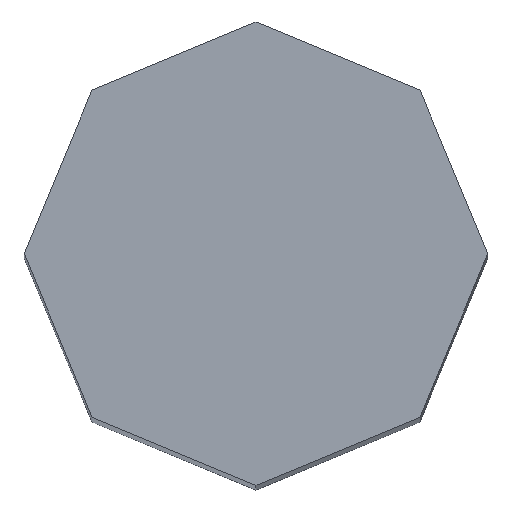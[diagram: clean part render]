
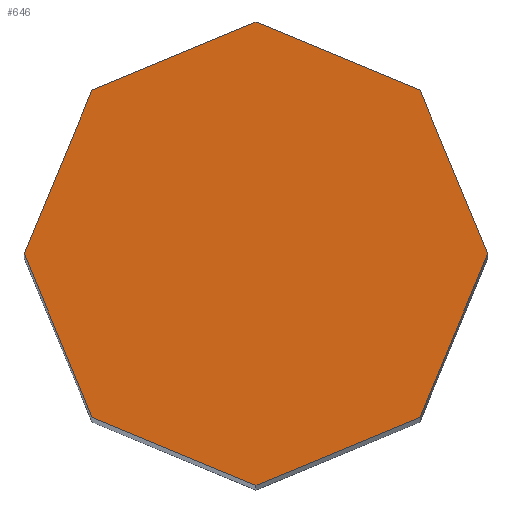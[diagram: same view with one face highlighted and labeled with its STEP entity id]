
A CAD part, top view. The second image highlights one B-rep face of the part: STEP entity #646.
In plain terms, the highlighted planar face has unit normal (0, 0, 1).
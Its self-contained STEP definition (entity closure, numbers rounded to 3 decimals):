
#24 = VERTEX_POINT('',#25);
#25 = CARTESIAN_POINT('',(15.2,0.,172.7));
#32 = PLANE('',#33);
#33 = AXIS2_PLACEMENT_3D('',#34,#35,#36);
#34 = CARTESIAN_POINT('',(15.2,0.,0.));
#35 = DIRECTION('',(-0.924,-0.383,0.));
#36 = DIRECTION('',(-0.383,0.924,0.));
#44 = PLANE('',#45);
#45 = AXIS2_PLACEMENT_3D('',#46,#47,#48);
#46 = CARTESIAN_POINT('',(10.748,-10.748,0.));
#47 = DIRECTION('',(-0.924,0.383,0.));
#48 = DIRECTION('',(0.383,0.924,0.));
#56 = EDGE_CURVE('',#24,#57,#59,.T.);
#57 = VERTEX_POINT('',#58);
#58 = CARTESIAN_POINT('',(10.748,10.748,172.7));
#59 = SURFACE_CURVE('',#60,(#64,#71),.PCURVE_S1.);
#60 = LINE('',#61,#62);
#61 = CARTESIAN_POINT('',(15.2,0.,172.7));
#62 = VECTOR('',#63,1.);
#63 = DIRECTION('',(-0.383,0.924,0.));
#64 = PCURVE('',#32,#65);
#65 = DEFINITIONAL_REPRESENTATION('',(#66),#70);
#66 = LINE('',#67,#68);
#67 = CARTESIAN_POINT('',(0.,-172.7));
#68 = VECTOR('',#69,1.);
#69 = DIRECTION('',(1.,0.));
#70 = ( GEOMETRIC_REPRESENTATION_CONTEXT(2) 
PARAMETRIC_REPRESENTATION_CONTEXT() REPRESENTATION_CONTEXT('2D SPACE',''
  ) );
#71 = PCURVE('',#72,#77);
#72 = PLANE('',#73);
#73 = AXIS2_PLACEMENT_3D('',#74,#75,#76);
#74 = CARTESIAN_POINT('',(0.,0.,172.7)
  );
#75 = DIRECTION('',(0.,0.,1.));
#76 = DIRECTION('',(1.,0.,-0.));
#77 = DEFINITIONAL_REPRESENTATION('',(#78),#82);
#78 = LINE('',#79,#80);
#79 = CARTESIAN_POINT('',(15.2,0.));
#80 = VECTOR('',#81,1.);
#81 = DIRECTION('',(-0.383,0.924));
#82 = ( GEOMETRIC_REPRESENTATION_CONTEXT(2) 
PARAMETRIC_REPRESENTATION_CONTEXT() REPRESENTATION_CONTEXT('2D SPACE',''
  ) );
#100 = PLANE('',#101);
#101 = AXIS2_PLACEMENT_3D('',#102,#103,#104);
#102 = CARTESIAN_POINT('',(10.748,10.748,0.));
#103 = DIRECTION('',(-0.383,-0.924,0.));
#104 = DIRECTION('',(-0.924,0.383,0.));
#142 = EDGE_CURVE('',#57,#143,#145,.T.);
#143 = VERTEX_POINT('',#144);
#144 = CARTESIAN_POINT('',(0.,15.2,172.7));
#145 = SURFACE_CURVE('',#146,(#150,#157),.PCURVE_S1.);
#146 = LINE('',#147,#148);
#147 = CARTESIAN_POINT('',(10.748,10.748,172.7));
#148 = VECTOR('',#149,1.);
#149 = DIRECTION('',(-0.924,0.383,0.));
#150 = PCURVE('',#100,#151);
#151 = DEFINITIONAL_REPRESENTATION('',(#152),#156);
#152 = LINE('',#153,#154);
#153 = CARTESIAN_POINT('',(0.,-172.7));
#154 = VECTOR('',#155,1.);
#155 = DIRECTION('',(1.,0.));
#156 = ( GEOMETRIC_REPRESENTATION_CONTEXT(2) 
PARAMETRIC_REPRESENTATION_CONTEXT() REPRESENTATION_CONTEXT('2D SPACE',''
  ) );
#157 = PCURVE('',#72,#158);
#158 = DEFINITIONAL_REPRESENTATION('',(#159),#163);
#159 = LINE('',#160,#161);
#160 = CARTESIAN_POINT('',(10.748,10.748));
#161 = VECTOR('',#162,1.);
#162 = DIRECTION('',(-0.924,0.383));
#163 = ( GEOMETRIC_REPRESENTATION_CONTEXT(2) 
PARAMETRIC_REPRESENTATION_CONTEXT() REPRESENTATION_CONTEXT('2D SPACE',''
  ) );
#181 = PLANE('',#182);
#182 = AXIS2_PLACEMENT_3D('',#183,#184,#185);
#183 = CARTESIAN_POINT('',(0.,15.2,0.));
#184 = DIRECTION('',(0.383,-0.924,0.));
#185 = DIRECTION('',(-0.924,-0.383,0.));
#218 = EDGE_CURVE('',#143,#219,#221,.T.);
#219 = VERTEX_POINT('',#220);
#220 = CARTESIAN_POINT('',(-10.748,10.748,172.7));
#221 = SURFACE_CURVE('',#222,(#226,#233),.PCURVE_S1.);
#222 = LINE('',#223,#224);
#223 = CARTESIAN_POINT('',(0.,15.2,172.7));
#224 = VECTOR('',#225,1.);
#225 = DIRECTION('',(-0.924,-0.383,0.));
#226 = PCURVE('',#181,#227);
#227 = DEFINITIONAL_REPRESENTATION('',(#228),#232);
#228 = LINE('',#229,#230);
#229 = CARTESIAN_POINT('',(0.,-172.7));
#230 = VECTOR('',#231,1.);
#231 = DIRECTION('',(1.,0.));
#232 = ( GEOMETRIC_REPRESENTATION_CONTEXT(2) 
PARAMETRIC_REPRESENTATION_CONTEXT() REPRESENTATION_CONTEXT('2D SPACE',''
  ) );
#233 = PCURVE('',#72,#234);
#234 = DEFINITIONAL_REPRESENTATION('',(#235),#239);
#235 = LINE('',#236,#237);
#236 = CARTESIAN_POINT('',(0.,15.2));
#237 = VECTOR('',#238,1.);
#238 = DIRECTION('',(-0.924,-0.383));
#239 = ( GEOMETRIC_REPRESENTATION_CONTEXT(2) 
PARAMETRIC_REPRESENTATION_CONTEXT() REPRESENTATION_CONTEXT('2D SPACE',''
  ) );
#257 = PLANE('',#258);
#258 = AXIS2_PLACEMENT_3D('',#259,#260,#261);
#259 = CARTESIAN_POINT('',(-10.748,10.748,0.));
#260 = DIRECTION('',(0.924,-0.383,0.));
#261 = DIRECTION('',(-0.383,-0.924,0.));
#294 = EDGE_CURVE('',#219,#295,#297,.T.);
#295 = VERTEX_POINT('',#296);
#296 = CARTESIAN_POINT('',(-15.2,0.,172.7));
#297 = SURFACE_CURVE('',#298,(#302,#309),.PCURVE_S1.);
#298 = LINE('',#299,#300);
#299 = CARTESIAN_POINT('',(-10.748,10.748,172.7));
#300 = VECTOR('',#301,1.);
#301 = DIRECTION('',(-0.383,-0.924,0.));
#302 = PCURVE('',#257,#303);
#303 = DEFINITIONAL_REPRESENTATION('',(#304),#308);
#304 = LINE('',#305,#306);
#305 = CARTESIAN_POINT('',(0.,-172.7));
#306 = VECTOR('',#307,1.);
#307 = DIRECTION('',(1.,0.));
#308 = ( GEOMETRIC_REPRESENTATION_CONTEXT(2) 
PARAMETRIC_REPRESENTATION_CONTEXT() REPRESENTATION_CONTEXT('2D SPACE',''
  ) );
#309 = PCURVE('',#72,#310);
#310 = DEFINITIONAL_REPRESENTATION('',(#311),#315);
#311 = LINE('',#312,#313);
#312 = CARTESIAN_POINT('',(-10.748,10.748));
#313 = VECTOR('',#314,1.);
#314 = DIRECTION('',(-0.383,-0.924));
#315 = ( GEOMETRIC_REPRESENTATION_CONTEXT(2) 
PARAMETRIC_REPRESENTATION_CONTEXT() REPRESENTATION_CONTEXT('2D SPACE',''
  ) );
#333 = PLANE('',#334);
#334 = AXIS2_PLACEMENT_3D('',#335,#336,#337);
#335 = CARTESIAN_POINT('',(-15.2,0.,0.));
#336 = DIRECTION('',(0.924,0.383,-0.));
#337 = DIRECTION('',(0.383,-0.924,0.));
#370 = EDGE_CURVE('',#295,#371,#373,.T.);
#371 = VERTEX_POINT('',#372);
#372 = CARTESIAN_POINT('',(-10.748,-10.748,172.7));
#373 = SURFACE_CURVE('',#374,(#378,#385),.PCURVE_S1.);
#374 = LINE('',#375,#376);
#375 = CARTESIAN_POINT('',(-15.2,0.,172.7));
#376 = VECTOR('',#377,1.);
#377 = DIRECTION('',(0.383,-0.924,0.));
#378 = PCURVE('',#333,#379);
#379 = DEFINITIONAL_REPRESENTATION('',(#380),#384);
#380 = LINE('',#381,#382);
#381 = CARTESIAN_POINT('',(0.,-172.7));
#382 = VECTOR('',#383,1.);
#383 = DIRECTION('',(1.,0.));
#384 = ( GEOMETRIC_REPRESENTATION_CONTEXT(2) 
PARAMETRIC_REPRESENTATION_CONTEXT() REPRESENTATION_CONTEXT('2D SPACE',''
  ) );
#385 = PCURVE('',#72,#386);
#386 = DEFINITIONAL_REPRESENTATION('',(#387),#391);
#387 = LINE('',#388,#389);
#388 = CARTESIAN_POINT('',(-15.2,0.));
#389 = VECTOR('',#390,1.);
#390 = DIRECTION('',(0.383,-0.924));
#391 = ( GEOMETRIC_REPRESENTATION_CONTEXT(2) 
PARAMETRIC_REPRESENTATION_CONTEXT() REPRESENTATION_CONTEXT('2D SPACE',''
  ) );
#409 = PLANE('',#410);
#410 = AXIS2_PLACEMENT_3D('',#411,#412,#413);
#411 = CARTESIAN_POINT('',(-10.748,-10.748,0.));
#412 = DIRECTION('',(0.383,0.924,-0.));
#413 = DIRECTION('',(0.924,-0.383,0.));
#446 = EDGE_CURVE('',#371,#447,#449,.T.);
#447 = VERTEX_POINT('',#448);
#448 = CARTESIAN_POINT('',(0.,-15.2,172.7));
#449 = SURFACE_CURVE('',#450,(#454,#461),.PCURVE_S1.);
#450 = LINE('',#451,#452);
#451 = CARTESIAN_POINT('',(-10.748,-10.748,172.7));
#452 = VECTOR('',#453,1.);
#453 = DIRECTION('',(0.924,-0.383,0.));
#454 = PCURVE('',#409,#455);
#455 = DEFINITIONAL_REPRESENTATION('',(#456),#460);
#456 = LINE('',#457,#458);
#457 = CARTESIAN_POINT('',(0.,-172.7));
#458 = VECTOR('',#459,1.);
#459 = DIRECTION('',(1.,0.));
#460 = ( GEOMETRIC_REPRESENTATION_CONTEXT(2) 
PARAMETRIC_REPRESENTATION_CONTEXT() REPRESENTATION_CONTEXT('2D SPACE',''
  ) );
#461 = PCURVE('',#72,#462);
#462 = DEFINITIONAL_REPRESENTATION('',(#463),#467);
#463 = LINE('',#464,#465);
#464 = CARTESIAN_POINT('',(-10.748,-10.748));
#465 = VECTOR('',#466,1.);
#466 = DIRECTION('',(0.924,-0.383));
#467 = ( GEOMETRIC_REPRESENTATION_CONTEXT(2) 
PARAMETRIC_REPRESENTATION_CONTEXT() REPRESENTATION_CONTEXT('2D SPACE',''
  ) );
#485 = PLANE('',#486);
#486 = AXIS2_PLACEMENT_3D('',#487,#488,#489);
#487 = CARTESIAN_POINT('',(0.,-15.2,0.));
#488 = DIRECTION('',(-0.383,0.924,0.));
#489 = DIRECTION('',(0.924,0.383,0.));
#522 = EDGE_CURVE('',#447,#523,#525,.T.);
#523 = VERTEX_POINT('',#524);
#524 = CARTESIAN_POINT('',(10.748,-10.748,172.7));
#525 = SURFACE_CURVE('',#526,(#530,#537),.PCURVE_S1.);
#526 = LINE('',#527,#528);
#527 = CARTESIAN_POINT('',(0.,-15.2,172.7));
#528 = VECTOR('',#529,1.);
#529 = DIRECTION('',(0.924,0.383,0.));
#530 = PCURVE('',#485,#531);
#531 = DEFINITIONAL_REPRESENTATION('',(#532),#536);
#532 = LINE('',#533,#534);
#533 = CARTESIAN_POINT('',(0.,-172.7));
#534 = VECTOR('',#535,1.);
#535 = DIRECTION('',(1.,0.));
#536 = ( GEOMETRIC_REPRESENTATION_CONTEXT(2) 
PARAMETRIC_REPRESENTATION_CONTEXT() REPRESENTATION_CONTEXT('2D SPACE',''
  ) );
#537 = PCURVE('',#72,#538);
#538 = DEFINITIONAL_REPRESENTATION('',(#539),#543);
#539 = LINE('',#540,#541);
#540 = CARTESIAN_POINT('',(0.,-15.2));
#541 = VECTOR('',#542,1.);
#542 = DIRECTION('',(0.924,0.383));
#543 = ( GEOMETRIC_REPRESENTATION_CONTEXT(2) 
PARAMETRIC_REPRESENTATION_CONTEXT() REPRESENTATION_CONTEXT('2D SPACE',''
  ) );
#593 = EDGE_CURVE('',#523,#24,#594,.T.);
#594 = SURFACE_CURVE('',#595,(#599,#606),.PCURVE_S1.);
#595 = LINE('',#596,#597);
#596 = CARTESIAN_POINT('',(10.748,-10.748,172.7));
#597 = VECTOR('',#598,1.);
#598 = DIRECTION('',(0.383,0.924,0.));
#599 = PCURVE('',#44,#600);
#600 = DEFINITIONAL_REPRESENTATION('',(#601),#605);
#601 = LINE('',#602,#603);
#602 = CARTESIAN_POINT('',(0.,-172.7));
#603 = VECTOR('',#604,1.);
#604 = DIRECTION('',(1.,0.));
#605 = ( GEOMETRIC_REPRESENTATION_CONTEXT(2) 
PARAMETRIC_REPRESENTATION_CONTEXT() REPRESENTATION_CONTEXT('2D SPACE',''
  ) );
#606 = PCURVE('',#72,#607);
#607 = DEFINITIONAL_REPRESENTATION('',(#608),#612);
#608 = LINE('',#609,#610);
#609 = CARTESIAN_POINT('',(10.748,-10.748));
#610 = VECTOR('',#611,1.);
#611 = DIRECTION('',(0.383,0.924));
#612 = ( GEOMETRIC_REPRESENTATION_CONTEXT(2) 
PARAMETRIC_REPRESENTATION_CONTEXT() REPRESENTATION_CONTEXT('2D SPACE',''
  ) );
#646 = ADVANCED_FACE('',(#647),#72,.T.);
#647 = FACE_BOUND('',#648,.T.);
#648 = EDGE_LOOP('',(#649,#650,#651,#652,#653,#654,#655,#656));
#649 = ORIENTED_EDGE('',*,*,#56,.T.);
#650 = ORIENTED_EDGE('',*,*,#142,.T.);
#651 = ORIENTED_EDGE('',*,*,#218,.T.);
#652 = ORIENTED_EDGE('',*,*,#294,.T.);
#653 = ORIENTED_EDGE('',*,*,#370,.T.);
#654 = ORIENTED_EDGE('',*,*,#446,.T.);
#655 = ORIENTED_EDGE('',*,*,#522,.T.);
#656 = ORIENTED_EDGE('',*,*,#593,.T.);
